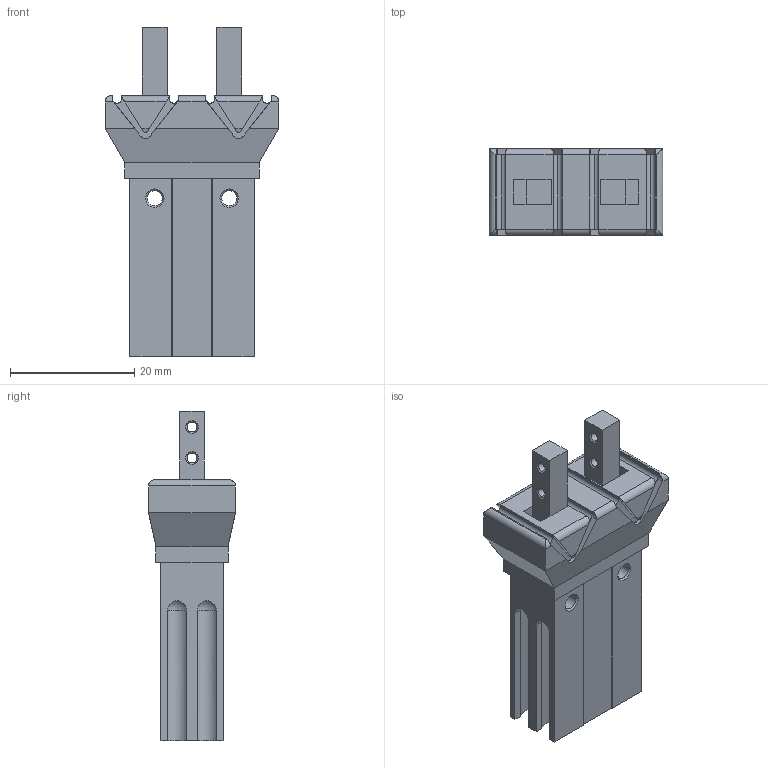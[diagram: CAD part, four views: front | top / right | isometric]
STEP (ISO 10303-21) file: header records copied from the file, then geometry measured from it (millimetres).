
FILE_DESCRIPTION (( 'STEP AP203' ), '1' );
FILE_NAME ('CHZJ2-6D.STEP', '2021-06-14T18:55:41', ( '' ), ( '' ), 'SwSTEP 2.0', 'SolidWorks 2019', '' );
FILE_SCHEMA (( 'CONFIG_CONTROL_DESIGN' ));
Length unit declared in the file: millimetre
Products named in the file (1): CHZJ2-6D
Bounding box: 28 x 14 x 53 mm (x, y, z)
Volume: 9392.8 mm3; surface area: 4877.7 mm2
Topology: 3 solids, 3 shells, 186 faces, 484 edges, 308 vertices
Faces by surface type: plane 100, cylinder 56, cone 28, sphere 2
Entity records: 5695 total; most frequent: CARTESIAN_POINT 1089, ORIENTED_EDGE 956, DIRECTION 932, EDGE_CURVE 478, LINE 318, VECTOR 318, AXIS2_PLACEMENT_3D 307, VERTEX_POINT 304
